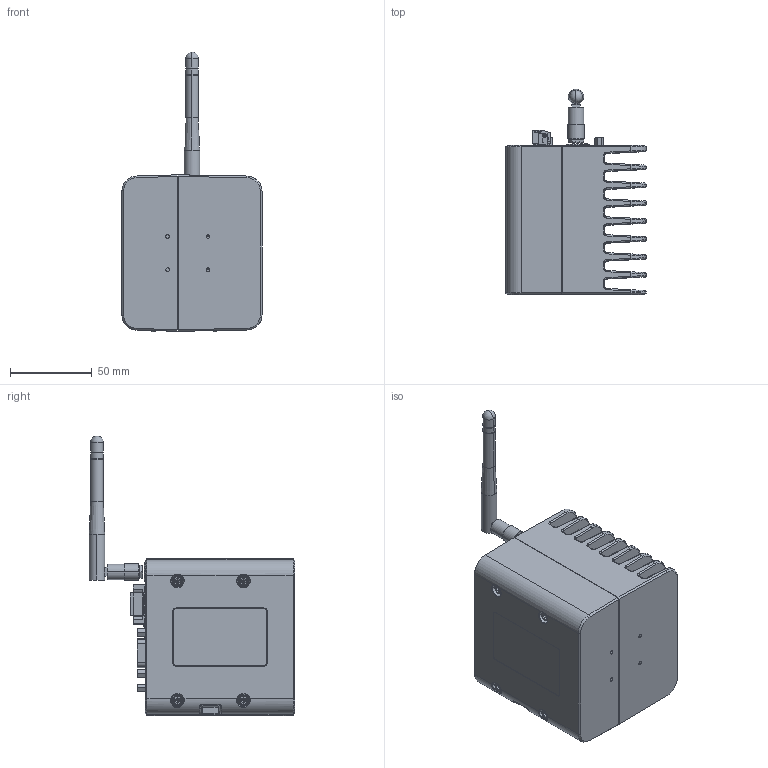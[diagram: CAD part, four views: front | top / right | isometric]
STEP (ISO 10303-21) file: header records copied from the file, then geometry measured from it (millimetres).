
FILE_DESCRIPTION((''),'2;1');
FILE_NAME('CU_NI_9792','2010-05-06T',('chwhite'),(''),'PRO/ENGINEER BY PARAMETRIC TECHNOLOGY CORPORATION, 2006300','PRO/ENGINEER BY PARAMETRIC TECHNOLOGY CORPORATION, 2006300','');
FILE_SCHEMA(('CONFIG_CONTROL_DESIGN'));
Products named in the file (1): CU_NI_9792
Bounding box: 85.6 x 125.62 x 171.01 mm (x, y, z)
Volume: 248051.8 mm3; surface area: 150155.1 mm2
Topology: 10 solids, 10 shells, 3621 faces, 9339 edges, 5761 vertices
Faces by surface type: plane 1910, cylinder 993, bspline 343, cone 157, torus 123, sphere 81, extrusion 14
Entity records: 138276 total; most frequent: CARTESIAN_POINT 52473, ORIENTED_EDGE 18598, DIRECTION 16598, EDGE_CURVE 9299, VECTOR 6184, LINE 6170, VERTEX_POINT 5761, AXIS2_PLACEMENT_3D 5207
